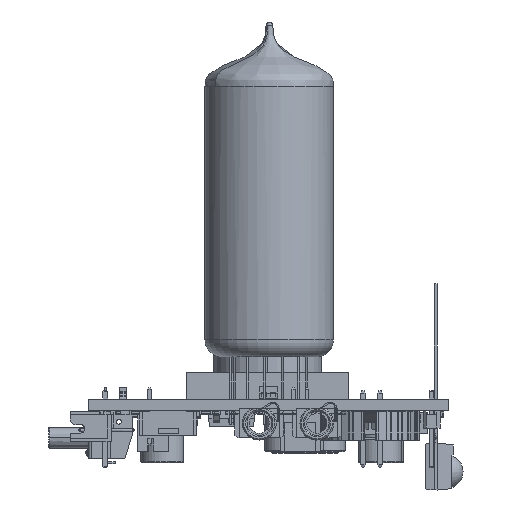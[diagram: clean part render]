
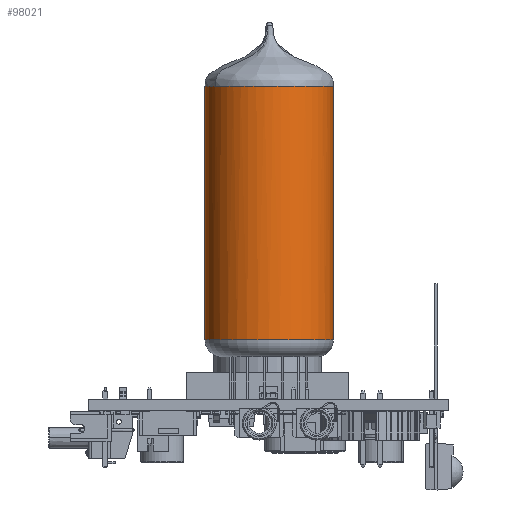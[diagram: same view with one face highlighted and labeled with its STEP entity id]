
A CAD part, left-side view. The second image highlights one B-rep face of the part: STEP entity #98021.
In plain terms, the highlighted cylindrical face has radius 9.5 mm (diameter 19 mm), a partial arc.
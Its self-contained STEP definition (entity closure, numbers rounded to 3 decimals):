
#97752 = EDGE_CURVE('',#97753,#97755,#97757,.T.);
#97753 = VERTEX_POINT('',#97754);
#97754 = CARTESIAN_POINT('',(27.025,36.055,
    46.309));
#97755 = VERTEX_POINT('',#97756);
#97756 = CARTESIAN_POINT('',(21.834,34.511,
    46.309));
#97757 = B_SPLINE_CURVE_WITH_KNOTS('',5,(#97758,#97759,#97760,#97761,
    #97762,#97763),.UNSPECIFIED.,.F.,.F.,(6,6),(0.409,0.5),
  .PIECEWISE_BEZIER_KNOTS.);
#97758 = CARTESIAN_POINT('',(27.025,36.055,
    46.309));
#97759 = CARTESIAN_POINT('',(25.955,36.056,
    46.309));
#97760 = CARTESIAN_POINT('',(24.879,35.907,
    46.309));
#97761 = CARTESIAN_POINT('',(23.819,35.603,
    46.309));
#97762 = CARTESIAN_POINT('',(22.796,35.139,
    46.309));
#97763 = CARTESIAN_POINT('',(21.834,34.511,
    46.309));
#97960 = VERTEX_POINT('',#97961);
#97961 = CARTESIAN_POINT('',(27.025,36.055,
    8.809));
#97969 = VERTEX_POINT('',#97970);
#97970 = CARTESIAN_POINT('',(27.025,17.055,
    8.809));
#97993 = VERTEX_POINT('',#97994);
#97994 = CARTESIAN_POINT('',(27.025,17.055,
    46.309));
#98003 = EDGE_CURVE('',#97993,#97969,#98004,.T.);
#98004 = LINE('',#98005,#98006);
#98005 = CARTESIAN_POINT('',(27.025,17.055,
    46.309));
#98006 = VECTOR('',#98007,1.);
#98007 = DIRECTION('',(0.,0.,-1.));
#98010 = EDGE_CURVE('',#97753,#97960,#98011,.T.);
#98011 = LINE('',#98012,#98013);
#98012 = CARTESIAN_POINT('',(27.025,36.055,
    46.309));
#98013 = VECTOR('',#98014,1.);
#98014 = DIRECTION('',(0.,0.,-1.));
#98021 = ADVANCED_FACE('',(#98022),#98049,.T.);
#98022 = FACE_BOUND('',#98023,.T.);
#98023 = EDGE_LOOP('',(#98024,#98025,#98040,#98041,#98042));
#98024 = ORIENTED_EDGE('',*,*,#98003,.F.);
#98025 = ORIENTED_EDGE('',*,*,#98026,.F.);
#98026 = EDGE_CURVE('',#97755,#97993,#98027,.T.);
#98027 = B_SPLINE_CURVE_WITH_KNOTS('',5,(#98028,#98029,#98030,#98031,
    #98032,#98033,#98034,#98035,#98036,#98037,#98038,#98039),
  .UNSPECIFIED.,.F.,.F.,(6,3,3,6),(0.5,0.75,0.781,0.909),
  .UNSPECIFIED.);
#98028 = CARTESIAN_POINT('',(21.834,34.511,
    46.309));
#98029 = CARTESIAN_POINT('',(19.199,32.792,
    46.309));
#98030 = CARTESIAN_POINT('',(17.51,30.166,
    46.309));
#98031 = CARTESIAN_POINT('',(16.862,27.084,
    46.309));
#98032 = CARTESIAN_POINT('',(17.41,23.613,
    46.309));
#98033 = CARTESIAN_POINT('',(19.517,20.712,
    46.309));
#98034 = CARTESIAN_POINT('',(19.755,20.421,
    46.309));
#98035 = CARTESIAN_POINT('',(21.049,18.976,
    46.309));
#98036 = CARTESIAN_POINT('',(22.64,17.927,
    46.309));
#98037 = CARTESIAN_POINT('',(24.05,17.352,
    46.309));
#98038 = CARTESIAN_POINT('',(25.531,17.057,
    46.309));
#98039 = CARTESIAN_POINT('',(27.025,17.055,
    46.309));
#98040 = ORIENTED_EDGE('',*,*,#97752,.F.);
#98041 = ORIENTED_EDGE('',*,*,#98010,.T.);
#98042 = ORIENTED_EDGE('',*,*,#98043,.T.);
#98043 = EDGE_CURVE('',#97960,#97969,#98044,.T.);
#98044 = CIRCLE('',#98045,9.5);
#98045 = AXIS2_PLACEMENT_3D('',#98046,#98047,#98048);
#98046 = CARTESIAN_POINT('',(27.025,26.555,
    8.809));
#98047 = DIRECTION('',(0.,0.,1.));
#98048 = DIRECTION('',(0.,-1.,0.));
#98049 = CYLINDRICAL_SURFACE('',#98050,9.5);
#98050 = AXIS2_PLACEMENT_3D('',#98051,#98052,#98053);
#98051 = CARTESIAN_POINT('',(27.025,26.555,
    46.309));
#98052 = DIRECTION('',(0.,0.,-1.));
#98053 = DIRECTION('',(0.,1.,0.));
